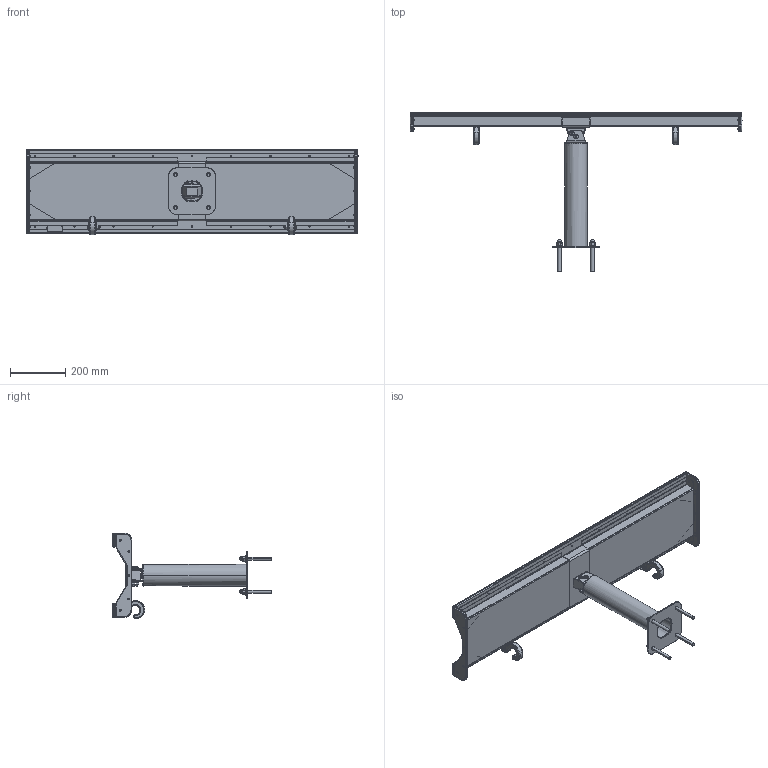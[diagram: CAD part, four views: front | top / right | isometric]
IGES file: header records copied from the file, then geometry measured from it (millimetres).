
Start section: SolidWorks IGES file using analytic representation for surfaces
Global section: file name: C:\Users\user25\Desktop\klient modele\570.203.020.011 - Split Channel FA.IGS; native system: SolidWorks 2018; preprocessor: SolidWorks 2018; author: user25; date: 210325.121211; units: millimetre
Bounding box: 1207.2 x 579.81 x 310.61 mm (x, y, z)
Surface area: 1580785.4 mm2 (no closed solid volume)
Topology: 0 solids, 0 shells, 882 faces, 10896 edges, 10845 vertices
Faces by surface type: bspline 509, revolution 373
